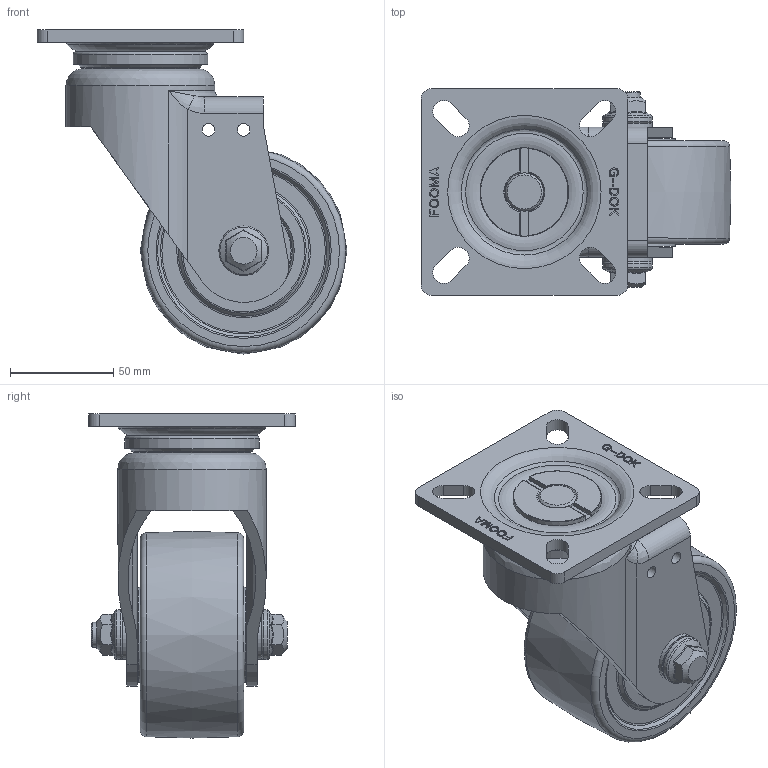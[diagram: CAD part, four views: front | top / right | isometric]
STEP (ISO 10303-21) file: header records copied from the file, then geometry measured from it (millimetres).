
FILE_DESCRIPTION((''),'2;1');
FILE_NAME('C:\Documents and Settings\Administrator\바탕 화면\3D STEP\PHS-SERIES\PHS-100\PHS-100ASF-MCD.stp','2010-12-27T14:47:11',('Administrator'),(''),'Autodesk Inventor 2009','Autodesk Inventor 2009','');
FILE_SCHEMA(('AUTOMOTIVE_DESIGN { 1 0 10303 214 1 1 1 1 }'));
Length unit declared in the file: millimetre
Products named in the file (1): PHS-100ASF-MCD
Bounding box: 150 x 100 x 156.88 mm (x, y, z)
Volume: 540241 mm3; surface area: 138285.6 mm2
Topology: 12 solids, 14 shells, 638 faces, 1679 edges, 1100 vertices
Faces by surface type: plane 452, cylinder 71, bspline 50, torus 42, cone 23
Full cylindrical faces by diameter (mm): 6.1 x4, 12 x1, 15 x2, 15.2 x2, 18.5 x2, 21.5 x1, 22 x1, 24 x4, 29.9 x1, 30.5 x2, 31.615 x2, 38 x1, 41 x1, 42.8 x1, 44 x2, 46 x2, 47 x2, 48.961 x2, 61 x1, 62 x1, 63.14 x1, 65.14 x1, 72 x1
Entity records: 21627 total; most frequent: CARTESIAN_POINT 6527, ORIENTED_EDGE 3072, DIRECTION 2879, EDGE_CURVE 1536, VECTOR 1177, LINE 1177, VERTEX_POINT 1072, AXIS2_PLACEMENT_3D 851
